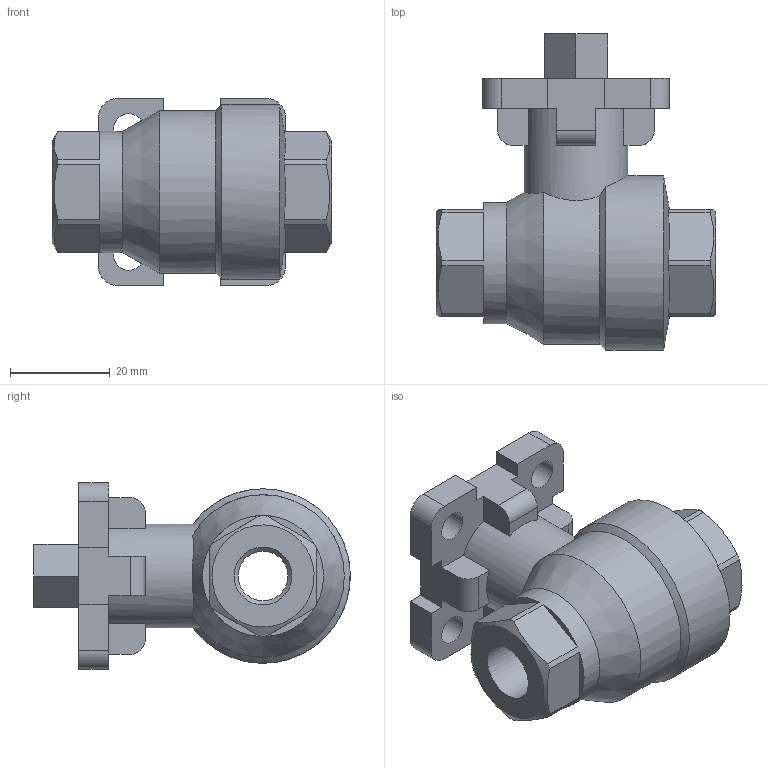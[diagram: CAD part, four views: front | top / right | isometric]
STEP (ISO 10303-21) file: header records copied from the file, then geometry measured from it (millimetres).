
FILE_DESCRIPTION (( 'STEP AP203' ), '1' );
FILE_NAME ('B3.622I0070FVPB0.STEP', '2018-09-27T15:15:16', ( 'dell2' ), ( 'Microsoft' ), 'SwSTEP 2.0', 'SolidWorks 2014', '' );
FILE_SCHEMA (( 'CONFIG_CONTROL_DESIGN' ));
Length unit declared in the file: millimetre
Products named in the file (1): B3.622I0070FVPB0
Bounding box: 56 x 63.5 x 37.5 mm (x, y, z)
Volume: 45822.3 mm3; surface area: 12889.9 mm2
Topology: 1 solids, 1 shells, 94 faces, 269 edges, 178 vertices
Faces by surface type: plane 62, cylinder 25, cone 7
Full cylindrical faces by diameter (mm): 6 x4, 10 x1, 11.6 x2, 20.8 x1, 24.3 x1, 35 x1
Entity records: 3213 total; most frequent: CARTESIAN_POINT 770, ORIENTED_EDGE 486, DIRECTION 478, EDGE_CURVE 243, VERTEX_POINT 168, AXIS2_PLACEMENT_3D 164, VECTOR 150, LINE 150
